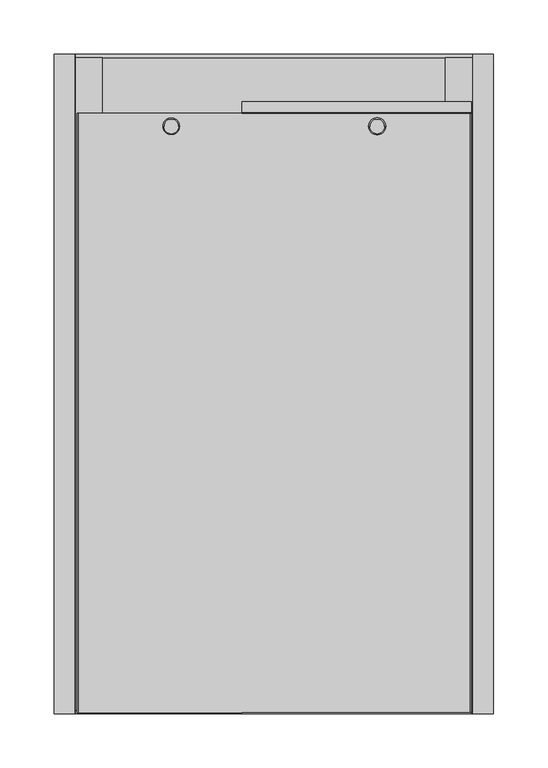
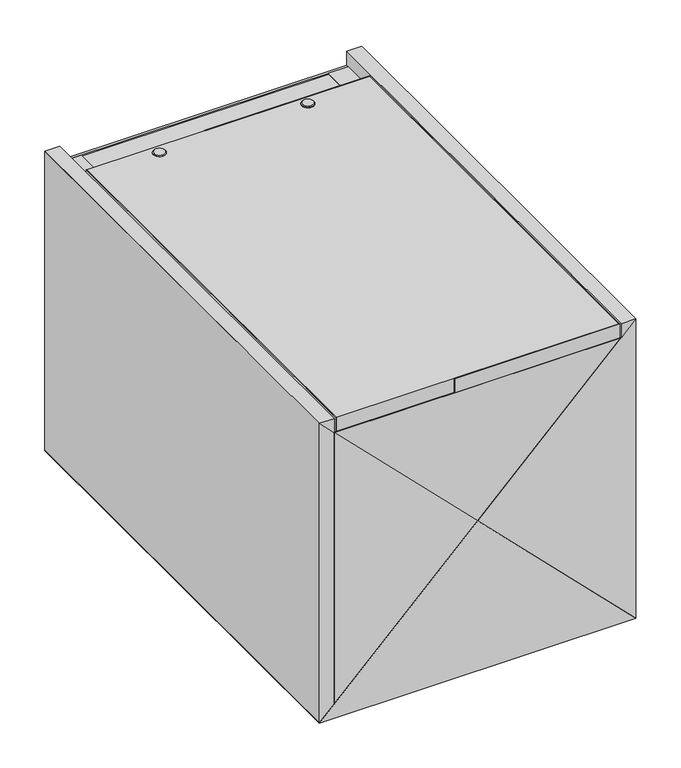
"""IFC4 building model written with IfcOpenShell, lengths in millimetres: proxy geometry, AERO^TABLE 2__AMC-101010."""

from ifc_helpers import new_model, si_unit, point, frame, frame_2d, origin, origin_with_axes, place, context, project, spatial, polyline, circle_curve, trimmed, segment, composite_curve, outline, extrude, source, transform, mapped, element, save
from ifc_brep_helpers import plane_surface, cylinder_surface, revolved_surface, advanced_brep


def generic_models_ec8657f2(model_context):
    return source(origin(), model_context, "Body", "SolidModel", [
        extrude(outline(polyline([(-19.05, 387.35), (184.15, 184.15), (-19.05, -19.05), (-19.05, 387.35)])), frame((0.0, 0.0, 0.0), z_axis=(0.0, 1.0, 0.0), x_axis=(0.0, 0.0, 1.0)), (0.0, 0.0, 1.0), 609.6),
        extrude(outline(polyline([(387.35, -19.05), (368.3, 0.0), (387.35, 0.0), (387.35, -19.05)])), frame((0.0, 0.0, 0.0), z_axis=(0.0, 1.0, 0.0), x_axis=(0.0, 0.0, 1.0)), (0.0, 0.0, 1.0), 609.6),
        advanced_brep(
        [(283.098875, 542.925, 377.825), (283.098875, 542.925, 387.35), (276.494875, 542.925, 387.35), (276.494875, 542.925, 377.825), (287.734375, 542.925, 387.35), (287.734375, 542.925, 387.746875), (271.859375, 542.925, 387.746875), (271.859375, 542.925, 387.35), (286.54375, 542.925, 388.9375), (273.05, 542.925, 388.9375)],
        [
            (0, 1),
            (1, 2, circle_curve(frame((279.796875, 542.925, 387.35), z_axis=(0.0, 0.0, -1.0), x_axis=(1.0, 0.0, 0.0)), 3.302)),
            (2, 3),
            (3, 0, circle_curve(frame((279.796875, 542.925, 377.825), z_axis=(0.0, 0.0, 1.0), x_axis=(1.0, 0.0, 0.0)), 3.302)),
            (4, 5),
            (5, 6, circle_curve(frame((279.796875, 542.925, 387.746875), z_axis=(0.0, 0.0, -1.0), x_axis=(1.0, 0.0, 0.0)), 7.9375)),
            (6, 7),
            (7, 4, circle_curve(frame((279.796875, 542.925, 387.35), z_axis=(0.0, 0.0, 1.0), x_axis=(1.0, 0.0, 0.0)), 7.9375)),
            (8, 5),
            (5, 6, circle_curve(frame((279.796875, 542.925, 387.746875), z_axis=(0.0, 0.0, 1.0), x_axis=(-1.0, 0.0, 0.0)), 7.9375)),
            (6, 9),
            (9, 8, circle_curve(frame((279.796875, 542.925, 388.9375), z_axis=(0.0, 0.0, -1.0), x_axis=(-1.0, 0.0, 0.0)), 6.746875)),
            (3, 0, circle_curve(frame((279.796875, 542.925, 377.825), z_axis=(0.0, 0.0, -1.0), x_axis=(1.0, 0.0, 0.0)), 3.302)),
            (9, 8, circle_curve(frame((279.796875, 542.925, 388.9375), z_axis=(0.0, 0.0, 1.0), x_axis=(1.0, 0.0, 0.0)), 6.746875)),
            (4, 7, circle_curve(frame((279.796875, 542.925, 387.35), z_axis=(0.0, 0.0, 1.0), x_axis=(1.0, 0.0, 0.0)), 7.9375)),
            (1, 2, circle_curve(frame((279.796875, 542.925, 387.35), z_axis=(0.0, 0.0, 1.0), x_axis=(1.0, 0.0, 0.0)), 3.302)),
        ],
        [
            cylinder_surface(frame((279.796875, 542.925, 377.825), z_axis=(0.0, 0.0, 1.0), x_axis=(1.0, 0.0, 0.0)), 3.302),
            cylinder_surface(frame((279.796875, 542.925, 387.35), z_axis=(0.0, 0.0, 1.0), x_axis=(1.0, 0.0, 0.0)), 7.9375),
            revolved_surface(polyline([(286.54375, 542.925, 388.9375), (287.734375, 542.925, 387.746875)]), (279.796875, 542.925, 395.684375), (0.0, 0.0, -1.0)),
            plane_surface(frame((279.796875, 542.925, 377.825), z_axis=(0.0, 0.0, -1.0), x_axis=(1.0, 0.0, 0.0))),
            plane_surface(frame((279.796875, 542.925, 388.9375), z_axis=(0.0, 0.0, 1.0), x_axis=(1.0, 0.0, 0.0))),
            plane_surface(frame((279.796875, 542.925, 387.35), z_axis=(0.0, 0.0, -1.0), x_axis=(1.0, 0.0, 0.0))),
        ],
        [
            (0, [[1, 2, 3, 4]]),
            (1, [[5, 6, 7, 8]]),
            (2, [[9, 10, 11, 12]]),
            (3, [[13, -4]]),
            (4, [[-12, 14]]),
            (2, [[-9, -14, -11, -6]]),
            (1, [[-5, 15, -7, -10]]),
            (5, [[-15, -8], [16, -2]]),
            (0, [[-1, -13, -3, -16]]),
        ],
    ),
        extrude(outline(polyline([(-19.05, -19.05), (184.15, 184.15), (387.35, -19.05), (-19.05, -19.05)])), frame((0.0, 0.0, 0.0), z_axis=(0.0, 1.0, 0.0), x_axis=(0.0, 0.0, 1.0)), (0.0, 0.0, 1.0), 609.6),
        extrude(outline(polyline([(3.175, 554.83125), (3.175, 0.79375), (2.38125, 0.79375), (2.38125, 554.83125), (3.175, 554.83125)])), frame((0.0, 0.0, 368.3), z_axis=(0.0, 0.0, 1.0), x_axis=(1.0, 0.0, 0.0)), (0.0, 0.0, 1.0), 19.05),
        extrude(outline(polyline([(154.76855, 0.79375), (366.7125, 0.79375), (366.7125, 0.0), (154.76855, 0.0), (154.76855, 0.79375)])), frame((0.0, 0.0, 368.3), z_axis=(0.0, 0.0, 1.0), x_axis=(1.0, 0.0, 0.0)), (0.0, 0.0, 1.0), 19.05),
        extrude(outline(polyline([(154.76855, 555.625), (366.7125, 555.625), (366.7125, 554.83125), (154.76855, 554.83125), (154.76855, 555.625)])), frame((0.0, 0.0, 368.3), z_axis=(0.0, 0.0, 1.0), x_axis=(1.0, 0.0, 0.0)), (0.0, 0.0, 1.0), 19.05),
        extrude(outline(polyline([(365.91875, 0.79375), (365.91875, 554.83125), (366.7125, 554.83125), (366.7125, 0.79375), (365.91875, 0.79375)])), frame((0.0, 0.0, 368.3), z_axis=(0.0, 0.0, 1.0), x_axis=(1.0, 0.0, 0.0)), (0.0, 0.0, 1.0), 19.05),
        extrude(outline(polyline([(365.91875, 0.79375), (3.175, 0.79375), (3.175, 554.83125), (365.91875, 554.83125), (365.91875, 0.79375)])), frame((0.0, 0.0, 368.3), z_axis=(0.0, 0.0, 1.0), x_axis=(1.0, 0.0, 0.0)), (0.0, 0.0, 1.0), 19.05),
        advanced_brep(
        [(92.598875, 542.925, 377.825), (92.598875, 542.925, 387.35), (85.994875, 542.925, 387.35), (85.994875, 542.925, 377.825), (97.234375, 542.925, 387.35), (97.234375, 542.925, 387.746875), (81.359375, 542.925, 387.746875), (81.359375, 542.925, 387.35), (96.04375, 542.925, 388.9375), (82.55, 542.925, 388.9375)],
        [
            (0, 1),
            (1, 2, circle_curve(frame((89.296875, 542.925, 387.35), z_axis=(0.0, 0.0, -1.0), x_axis=(1.0, 0.0, 0.0)), 3.302)),
            (2, 3),
            (3, 0, circle_curve(frame((89.296875, 542.925, 377.825), z_axis=(0.0, 0.0, 1.0), x_axis=(1.0, 0.0, 0.0)), 3.302)),
            (4, 5),
            (5, 6, circle_curve(frame((89.296875, 542.925, 387.746875), z_axis=(0.0, 0.0, -1.0), x_axis=(1.0, 0.0, 0.0)), 7.9375)),
            (6, 7),
            (7, 4, circle_curve(frame((89.296875, 542.925, 387.35), z_axis=(0.0, 0.0, 1.0), x_axis=(1.0, 0.0, 0.0)), 7.9375)),
            (8, 5),
            (5, 6, circle_curve(frame((89.296875, 542.925, 387.746875), z_axis=(0.0, 0.0, 1.0), x_axis=(-1.0, 0.0, 0.0)), 7.9375)),
            (6, 9),
            (9, 8, circle_curve(frame((89.296875, 542.925, 388.9375), z_axis=(0.0, 0.0, -1.0), x_axis=(-1.0, 0.0, 0.0)), 6.746875)),
            (3, 0, circle_curve(frame((89.296875, 542.925, 377.825), z_axis=(0.0, 0.0, -1.0), x_axis=(1.0, 0.0, 0.0)), 3.302)),
            (9, 8, circle_curve(frame((89.296875, 542.925, 388.9375), z_axis=(0.0, 0.0, 1.0), x_axis=(1.0, 0.0, 0.0)), 6.746875)),
            (4, 7, circle_curve(frame((89.296875, 542.925, 387.35), z_axis=(0.0, 0.0, 1.0), x_axis=(1.0, 0.0, 0.0)), 7.9375)),
            (1, 2, circle_curve(frame((89.296875, 542.925, 387.35), z_axis=(0.0, 0.0, 1.0), x_axis=(1.0, 0.0, 0.0)), 3.302)),
        ],
        [
            cylinder_surface(frame((89.296875, 542.925, 377.825), z_axis=(0.0, 0.0, 1.0), x_axis=(1.0, 0.0, 0.0)), 3.302),
            cylinder_surface(frame((89.296875, 542.925, 387.35), z_axis=(0.0, 0.0, 1.0), x_axis=(1.0, 0.0, 0.0)), 7.9375),
            revolved_surface(polyline([(96.04374999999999, 542.925, 388.9375), (97.234375, 542.925, 387.746875)]), (89.296875, 542.925, 395.684375), (0.0, 0.0, -1.0)),
            plane_surface(frame((89.296875, 542.925, 377.825), z_axis=(0.0, 0.0, -1.0), x_axis=(1.0, 0.0, 0.0))),
            plane_surface(frame((89.296875, 542.925, 388.9375), z_axis=(0.0, 0.0, 1.0), x_axis=(1.0, 0.0, 0.0))),
            plane_surface(frame((89.296875, 542.925, 387.35), z_axis=(0.0, 0.0, -1.0), x_axis=(1.0, 0.0, 0.0))),
        ],
        [
            (0, [[1, 2, 3, 4]]),
            (1, [[5, 6, 7, 8]]),
            (2, [[9, 10, 11, 12]]),
            (3, [[13, -4]]),
            (4, [[-12, 14]]),
            (2, [[-9, -14, -11, -6]]),
            (1, [[-5, 15, -7, -10]]),
            (5, [[-15, -8], [16, -2]]),
            (0, [[-1, -13, -3, -16]]),
        ],
    ),
        extrude(outline(polyline([(368.3, 368.3), (387.35, 387.35), (387.35, 368.3), (368.3, 368.3)])), frame((0.0, 0.0, 0.0), z_axis=(0.0, 1.0, 0.0), x_axis=(0.0, 0.0, 1.0)), (0.0, 0.0, 1.0), 609.6),
        extrude(outline(composite_curve([segment(polyline([(565.5564, 376.0089), (565.5564, 366.7125), (538.35935, 366.7125)]), True, "CONTINUOUS"), segment(trimmed(circle_curve(frame_2d((538.35935, 367.50625)), 0.79375), [point((538.35935, 366.7125))], [point((538.35935, 368.3))], False, "CARTESIAN"), True, "CONTINUOUS"), segment(polyline([(538.35935, 368.3), (555.625, 368.3), (555.625, 376.0089), (565.5564, 376.0089)]), True, "CONTINUOUS")], self_intersect=False)), frame((154.78125, 0.0, 0.0), z_axis=(1.0, 0.0, 0.0), x_axis=(0.0, 1.0, 0.0)), (0.0, 0.0, 1.0), 211.93125),
        extrude(outline(polyline([(387.35, 387.35), (184.15, 184.15), (-19.05, 387.35), (387.35, 387.35)])), frame((0.0, 0.0, 0.0), z_axis=(0.0, 1.0, 0.0), x_axis=(0.0, 0.0, 1.0)), (0.0, 0.0, 1.0), 609.6),
        extrude(outline(polyline([(366.78108, 25.4), (368.3, 25.4), (368.3, 0.0), (0.0, 0.0), (0.0, 368.3), (368.3, 368.3), (368.3, 342.9), (366.78108, 342.9), (366.78108, 366.78108), (1.51892, 366.78108), (1.51892, 1.51892), (366.78108, 1.51892), (366.78108, 25.4)])), frame((0.0, 3.175, 0.0), z_axis=(0.0, 1.0, 0.0), x_axis=(0.0, 0.0, 1.0)), (0.0, 0.0, 1.0), 603.25),
        extrude(outline(polyline([(368.3, 609.6), (368.3, 606.425), (0.0, 606.425), (0.0, 609.6), (368.3, 609.6)])), origin_with_axes(), (0.0, 0.0, 1.0), 368.3),
        extrude(outline(polyline([(368.3, 3.175), (368.3, 0.0), (0.0, 0.0), (0.0, 3.175), (368.3, 3.175)])), origin_with_axes(), (0.0, 0.0, 1.0), 368.3),
        extrude(outline(polyline([(366.64392, 530.225), (1.51892, 530.225), (1.51892, 606.425), (366.64392, 606.425), (366.64392, 530.225)])), frame((0.0, 0.0, 365.19358), z_axis=(0.0, 0.0, 1.0), x_axis=(1.0, 0.0, 0.0)), (0.0, 0.0, 1.0), 1.5875),
    ])


if __name__ == "__main__":
    model = new_model("IFC4")
    model_context = context("Model", 3, world=origin())
    ifc_project = project(units=[si_unit("LENGTHUNIT", "METRE", prefix="MILLI")], contexts=[model_context])
    site = spatial("IfcSite", under=ifc_project)
    building = spatial("IfcBuilding", under=site)
    placement = place(None, origin())
    generic_models_shape = generic_models_ec8657f2(model_context)
    element("IfcBuildingElementProxy", 1, Name="AERO^TABLE 2__AMC-101010", ObjectType="AERO^TABLE 2__AMC-101010", at=placement, inside=building, context=model_context, shape_type="MappedRepresentation", body=[
        mapped(generic_models_shape, transform((0.0, 0.0, 0.0), x_axis=(1.0, 0.0, 0.0), y_axis=(0.0, 1.0, 0.0), z_axis=(0.0, 0.0, 1.0))),
    ])
    save(model, "model.ifc")
